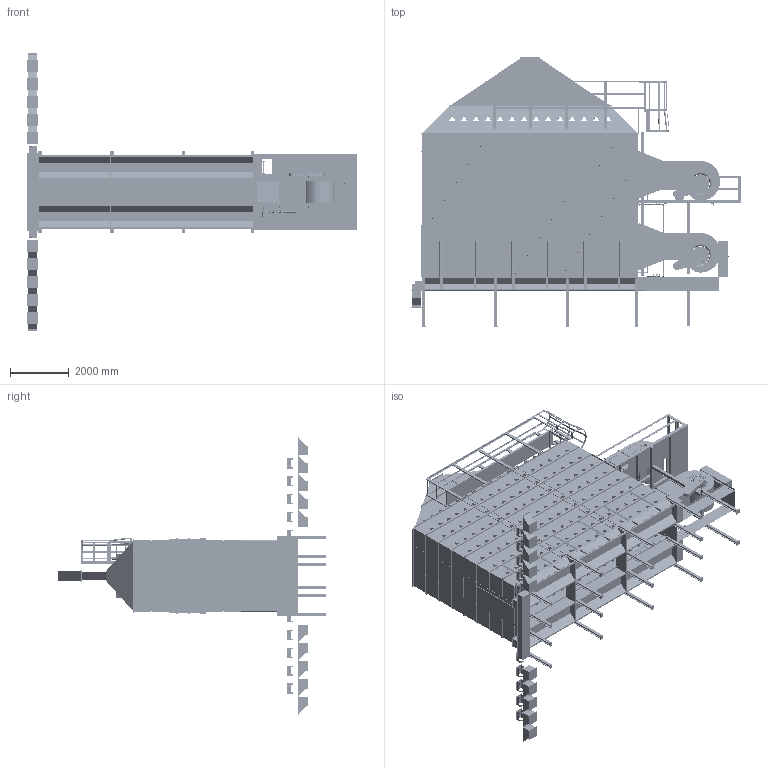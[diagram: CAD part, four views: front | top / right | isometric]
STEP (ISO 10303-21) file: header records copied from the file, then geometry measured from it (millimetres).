
FILE_DESCRIPTION(/* description */ ('PLAN AND ELEVATION VIEW FOR D24150 WITH ROOF & GRAVITY FILL'),/* implementation_level */ '2;1');
FILE_NAME(/* name */ 'C:\Engineering\Designs\Sales\Dryer\Workspaces\D24 All\D24150GF.stp',/* time_stamp */ '2025-01-07T09:32:03-06:00',/* author */ ('max.fleming'),/* organization */ (''),/* preprocessor_version */ 'ST-DEVELOPER v18.1',/* originating_system */ 'Autodesk Inventor 2022',/* authorisation */ '');
FILE_SCHEMA (('AUTOMOTIVE_DESIGN { 1 0 10303 214 3 1 1 }'));
Products named in the file (34): D24150GF; 24FT CATWALK; 24FT FRAME; 8FT MID FRAME; 8FT LHRH FRAME; 24FT Grav Assy; 24FT ROOF GF; 8FTRoof GF MID; 8FTRoof GF LHRH; Tongue; Platform Support 1-T; 24FT BODY TIER; LH Body; MID Body; RH Body; LH Body_MIR2; MID Body_MIR1; RH Body_MIR2; Outside Splice; Trans & Blower; Screen Guard; Belt Shield; LP Fuel; Standard Size End Plenum Panels; Ladder 2' section; Platform; Stiffeners; 1 Tier Vertical Support; LP Inlet; 2401002; Liquid Propane Pipe; 6'' CROSS AUGER; 12'' CROSS DRAG; Leg Kit 24 10T 4'
Assembly tree (90 placements, depth 3):
  D24150GF
    24FT CATWALK
    24FT FRAME
      8FT LHRH FRAME  x2
      8FT MID FRAME
    24FT Grav Assy
    24FT ROOF GF
      8FTRoof GF LHRH  x2
      8FTRoof GF MID
    Tongue
    Platform Support 1-T
    24FT BODY TIER  x8
      LH Body
      MID Body
      RH Body
      LH Body_MIR2
      MID Body_MIR1
      RH Body_MIR2
      Outside Splice
    Trans & Blower  x2
    Screen Guard  x4
    Belt Shield  x2
    LP Fuel  x2
    Standard Size End Plenum Panels  x13
    Platform
    Stiffeners  x24
    1 Tier Vertical Support  x6
    LP Inlet
    2401002
    Liquid Propane Pipe  x4
  Ladder 2' section
  6'' CROSS AUGER
  12'' CROSS DRAG
  Leg Kit 24 10T 4'
Bounding box: 11201.4 x 9130.68 x 9423.4 mm (x, y, z)
Volume: 69621603798.2 mm3; surface area: 953403313.2 mm2
Topology: 484 solids, 642 shells, 38205 faces, 99143 edges, 63397 vertices
Faces by surface type: plane 18100, cylinder 11165, bspline 3773, cone 3394, torus 1591, sphere 182
Full cylindrical faces by diameter (mm): 1 x10, 1.651 x6, 1.753 x6, 1.778 x12, 2.019 x4, 2.108 x2, 2.286 x24, 2.489 x2, 2.54 x4, 3.091 x288, 3.175 x5, 3.251 x20, 3.306 x288, 3.522 x2, 3.658 x28, 3.8 x16, 4 x384, 4.039 x20, 4.166 x256, 4.191 x4, 4.229 x2, 4.267 x2, 4.369 x8, 4.445 x8, 4.701 x592, 4.762 x16, 4.851 x8, 4.928 x32, 5.283 x2, 5.527 x20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
Entity records: 770527 total; most frequent: CARTESIAN_POINT 341342, ORIENTED_EDGE 89808, DIRECTION 80388, EDGE_CURVE 45044, VERTEX_POINT 28810, AXIS2_PLACEMENT_3D 27581, LINE 25226, VECTOR 25226
